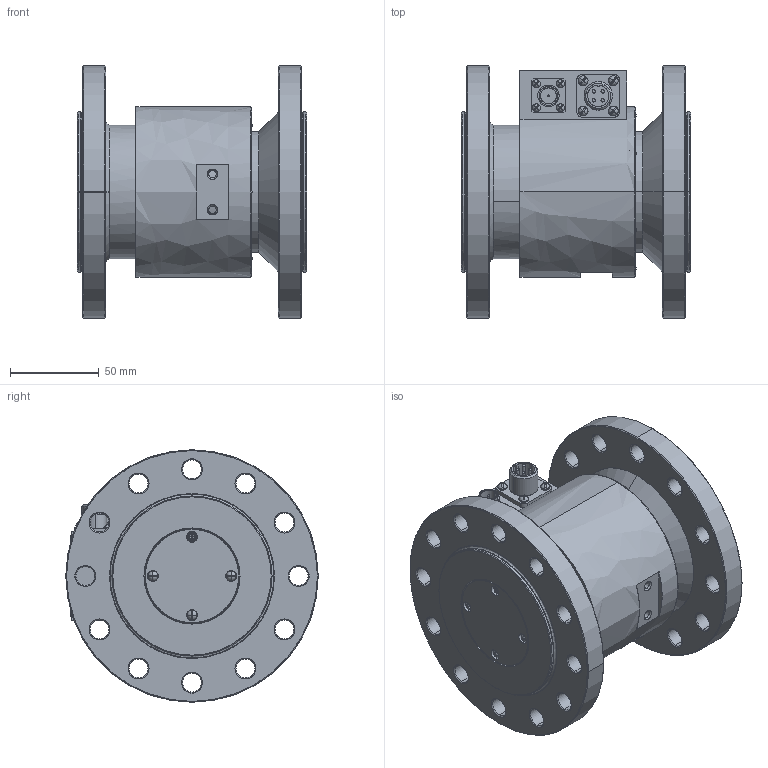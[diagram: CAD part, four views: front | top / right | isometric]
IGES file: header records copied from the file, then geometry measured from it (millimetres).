
Start section: SolidWorks IGES file using analytic representation for surfaces
Bounding box: 129 x 142 x 142 mm (x, y, z)
Surface area: 125587.1 mm2 (no closed solid volume)
Topology: 0 solids, 0 shells, 868 faces, 15530 edges, 15506 vertices
Faces by surface type: revolution 604, bspline 264
